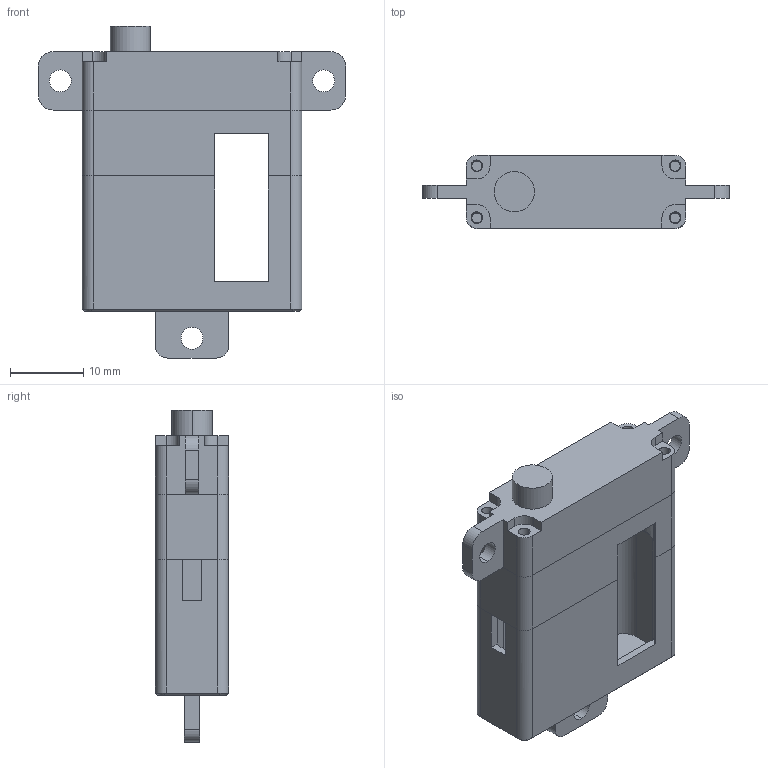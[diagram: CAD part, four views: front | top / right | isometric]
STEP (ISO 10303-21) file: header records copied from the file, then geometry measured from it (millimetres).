
FILE_DESCRIPTION (( 'STEP AP214' ), '1' );
FILE_NAME ('DS125 135 145MG_DM_20207.STEP', '2023-11-04T07:15:32', ( '' ), ( '' ), 'SwSTEP 2.0', 'SolidWorks 2016', '' );
FILE_SCHEMA (( 'AUTOMOTIVE_DESIGN' ));
Length unit declared in the file: millimetre
Products named in the file (1): DS125 135 145MG_DM_20207
Bounding box: 42 x 10 x 45.4 mm (x, y, z)
Volume: 4243 mm3; surface area: 7205.4 mm2
Topology: 4 solids, 4 shells, 256 faces, 729 edges, 484 vertices
Faces by surface type: plane 134, cylinder 117, cone 5
Entity records: 8782 total; most frequent: CARTESIAN_POINT 1800, DIRECTION 1472, ORIENTED_EDGE 1458, EDGE_CURVE 729, AXIS2_PLACEMENT_3D 521, VERTEX_POINT 484, VECTOR 430, LINE 430
